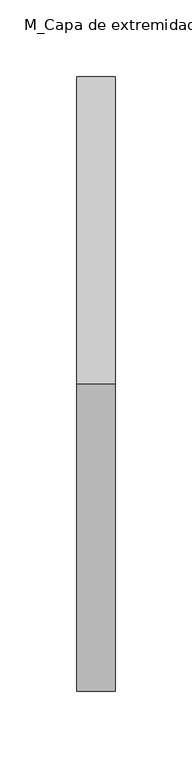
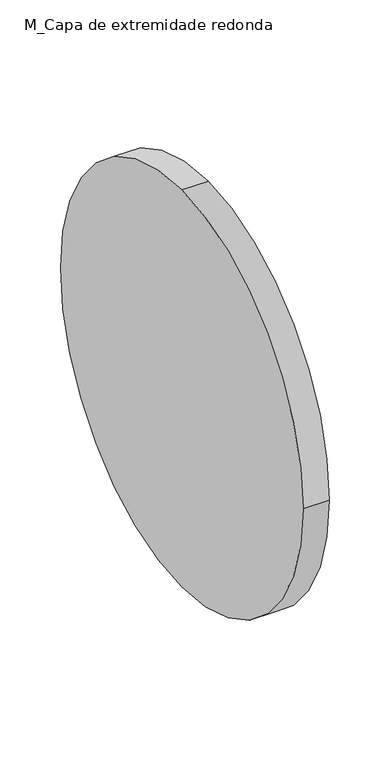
"""IFC4 building model written with IfcOpenShell, lengths in millimetres: duct fitting geometry, M_Capa de extremidade redonda : Padrão."""

from ifc_helpers import new_model, si_unit, point, frame, origin, origin_2d, place, context, project, spatial, circle_curve, trimmed, segment, composite_curve, outline, extrude, source, transform, mapped, element, save


def m_capa_de_extremidade_redonda_c14c7098(model_context):
    return source(origin(), model_context, "Body", "SweptSolid", [
        extrude(outline(composite_curve([segment(trimmed(circle_curve(origin_2d(), 200.0), [point((0.0, 200.0))], [point((200.0, 0.0))], False, "CARTESIAN"), True, "CONTINUOUS"), segment(trimmed(circle_curve(origin_2d(), 200.0), [point((200.0, 0.0))], [point((0.0, -200.0))], False, "CARTESIAN"), True, "CONTINUOUS"), segment(trimmed(circle_curve(origin_2d(), 200.0), [point((0.0, -200.0))], [point((-200.0, 0.0))], False, "CARTESIAN"), True, "CONTINUOUS"), segment(trimmed(circle_curve(origin_2d(), 200.0), [point((-200.0, 0.0))], [point((0.0, 200.0))], False, "CARTESIAN"), True, "CONTINUOUS")], self_intersect=False)), frame((0.0, 0.0, 0.0), z_axis=(1.0, 0.0, 0.0), x_axis=(0.0, 1.0, 0.0)), (0.0, 0.0, 1.0), 25.0),
    ])


if __name__ == "__main__":
    model = new_model("IFC4")
    model_context = context("Model", 3, world=origin())
    ifc_project = project(units=[si_unit("LENGTHUNIT", "METRE", prefix="MILLI")], contexts=[model_context])
    site = spatial("IfcSite", under=ifc_project)
    building = spatial("IfcBuilding", under=site)
    placement = place(None, origin())
    m_capa_de_extremidade_redonda_shape = m_capa_de_extremidade_redonda_c14c7098(model_context)
    element("IfcDuctFitting", 1, ObjectType="M_Capa de extremidade redonda : Padrão", at=placement, inside=building, context=model_context, shape_type="MappedRepresentation", body=[
        mapped(m_capa_de_extremidade_redonda_shape, transform((0.0, 0.0, 0.0), x_axis=(1.0, 0.0, 0.0), y_axis=(0.0, 1.0, 0.0), z_axis=(0.0, 0.0, 1.0))),
    ])
    save(model, "model.ifc")
